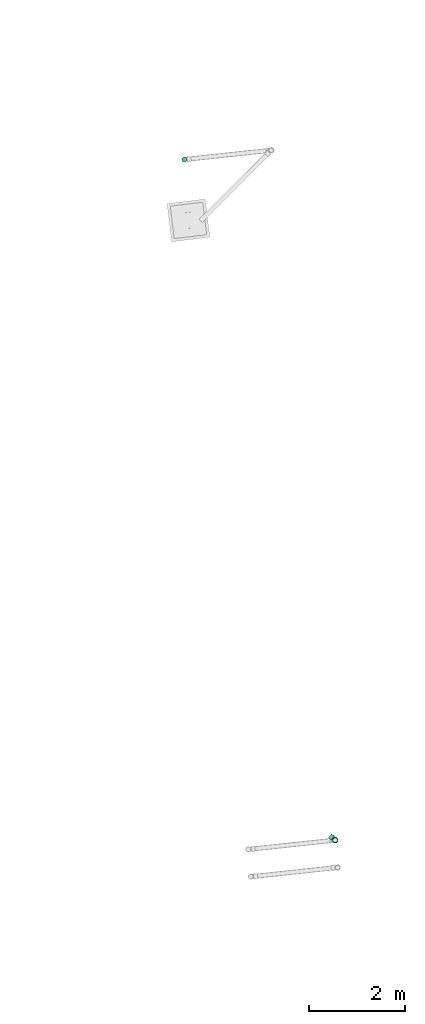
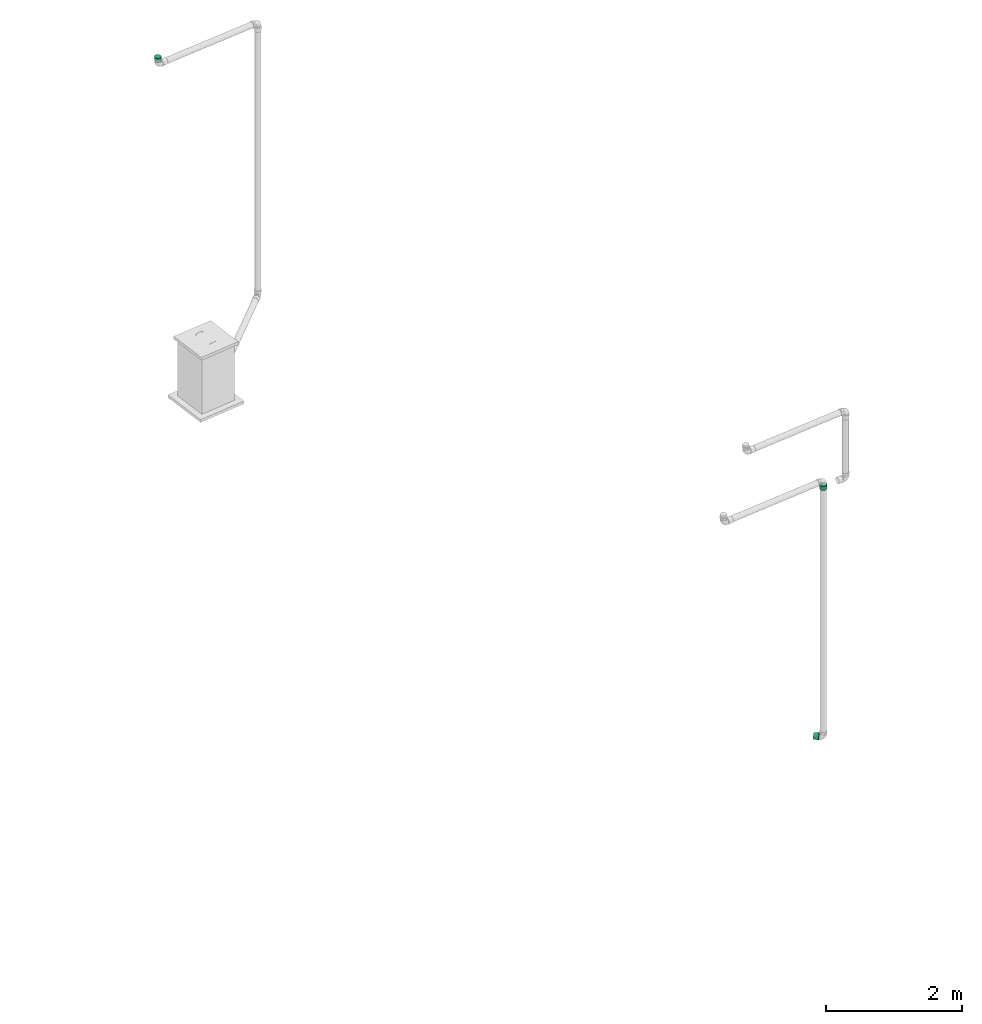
# One storey, part 43 of 97: 2 flow fittings, 1 flow segment.
"""IFC2X3 building model written with IfcOpenShell, lengths in centimetres."""

from ifc_helpers import new_model, entity, si_unit, converted_unit, derived_unit, direction, frame, frame_2d, origin, place, context, subcontext, project, spatial, circle, extrude, faceted_brep, source, transform, mapped, material, type_object, type_shapes, element, save


model = new_model("IFC2X3")

# Units and contexts
model_context = context("Model", 3, precision=0.001, world=origin(), true_north=direction((6.12303176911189e-17, 1.0)))
body_context = subcontext(model_context, "Body", "Model", "MODEL_VIEW")
ifc_project = project(units=[si_unit("LENGTHUNIT", "METRE", prefix="CENTI"), si_unit("AREAUNIT", "SQUARE_METRE"), si_unit("VOLUMEUNIT", "CUBIC_METRE"), converted_unit("PLANEANGLEUNIT", "DEGREE", entity("IfcRatioMeasure", 0.0174532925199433), si_unit("PLANEANGLEUNIT", "RADIAN"), dimensions=[0, 0, 0, 0, 0, 0, 0]), si_unit("MASSUNIT", "GRAM", prefix="KILO"), derived_unit("MASSDENSITYUNIT", [(si_unit("MASSUNIT", "GRAM", prefix="KILO"), 1), (si_unit("LENGTHUNIT", "METRE"), -3)]), derived_unit("MOMENTOFINERTIAUNIT", [(si_unit("LENGTHUNIT", "METRE"), 4)]), si_unit("TIMEUNIT", "SECOND"), si_unit("FREQUENCYUNIT", "HERTZ"), si_unit("THERMODYNAMICTEMPERATUREUNIT", "DEGREE_CELSIUS"), derived_unit("THERMALTRANSMITTANCEUNIT", [(si_unit("MASSUNIT", "GRAM", prefix="KILO"), 1), (si_unit("THERMODYNAMICTEMPERATUREUNIT", "KELVIN"), -1), (si_unit("TIMEUNIT", "SECOND"), -3)]), derived_unit("VOLUMETRICFLOWRATEUNIT", [(si_unit("LENGTHUNIT", "METRE"), 3), (si_unit("TIMEUNIT", "SECOND"), -1)]), si_unit("ELECTRICCURRENTUNIT", "AMPERE"), si_unit("ELECTRICVOLTAGEUNIT", "VOLT"), si_unit("POWERUNIT", "WATT"), si_unit("FORCEUNIT", "NEWTON", prefix="KILO"), si_unit("ILLUMINANCEUNIT", "LUX"), si_unit("LUMINOUSFLUXUNIT", "LUMEN"), si_unit("LUMINOUSINTENSITYUNIT", "CANDELA"), derived_unit("USERDEFINED", [(si_unit("MASSUNIT", "GRAM", prefix="KILO"), -1), (si_unit("LENGTHUNIT", "METRE"), -2), (si_unit("TIMEUNIT", "SECOND"), 3), (si_unit("LUMINOUSFLUXUNIT", "LUMEN"), 1)]), derived_unit("LINEARVELOCITYUNIT", [(si_unit("LENGTHUNIT", "METRE"), 1), (si_unit("TIMEUNIT", "SECOND"), -1)]), si_unit("PRESSUREUNIT", "PASCAL"), derived_unit("USERDEFINED", [(si_unit("LENGTHUNIT", "METRE"), -2), (si_unit("MASSUNIT", "GRAM", prefix="KILO"), 1), (si_unit("TIMEUNIT", "SECOND"), -2)]), derived_unit("LINEARFORCEUNIT", [(si_unit("MASSUNIT", "GRAM", prefix="KILO"), 1), (si_unit("LENGTHUNIT", "METRE"), 1), (si_unit("TIMEUNIT", "SECOND"), -2), (si_unit("LENGTHUNIT", "METRE"), -1)]), derived_unit("PLANARFORCEUNIT", [(si_unit("MASSUNIT", "GRAM", prefix="KILO"), 1), (si_unit("LENGTHUNIT", "METRE"), 1), (si_unit("TIMEUNIT", "SECOND"), -2), (si_unit("LENGTHUNIT", "METRE"), -2)])], contexts=[model_context])

# Site, building, storey
site_placement = place(None, origin())
site = spatial("IfcSite", under=ifc_project, at=site_placement, Name="Default", CompositionType="ELEMENT")
building_placement = place(site_placement, origin())
building = spatial("IfcBuilding", under=site, at=building_placement, Name="HIDROSSANITÁRIO", CompositionType="ELEMENT")
storey_placement = place(building_placement, frame((0.0, 0.0, -260.0)))
storey = spatial("IfcBuildingStorey", under=building, at=storey_placement, Name="TÉRREO-HID", CompositionType="ELEMENT", Elevation=-260.0)

# Flow segment
pipe_segment_type = type_object("IfcPipeSegmentType", Name="Tipos de tubos:Tubo - Esgoto - Série Normal", PredefinedType="NOTDEFINED")
flow_segment_placement = place(storey_placement, origin())
element("IfcFlowSegment", 1, at=flow_segment_placement, inside=storey, type_object=pipe_segment_type, Name="Tipos de tubos:Tubo - Esgoto - Série Normal", ObjectType="Tipos de tubos:Tubo - Esgoto - Série Normal", context=body_context, shape_type="SweptSolid", body=[
    extrude(circle(Radius=5.0, at=frame_2d((4.33146851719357e-13, 4.33146851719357e-13), x_axis=(1.0, 0.0))), frame((2635.56569547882, 2830.5002002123, 466.4), z_axis=(0.0, 0.0, 1.0), x_axis=(-1.0, 0.0, 0.0)), (0.0, 0.0, 1.0), 8.09999999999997),
])

# Flow fittings
ifc_material = material(Name="PVC Branco")
pipe_fitting_type = type_object("IfcPipeFittingType", Name="Luva Simples para Conexão - Serie Normal - Esgoto - MEP - Tigre:Standard", PredefinedType="NOTDEFINED", material=ifc_material)
shared_shape = source(origin(), body_context, "Body", "Brep", [
    faceted_brep([(1.77700000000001, 2.8725, -4.9753159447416), (1.77700000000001, 4.06232845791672, -4.06232845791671), (1.77700000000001, 2.65249999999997, -4.59426476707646), (1.77700000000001, 1.37303503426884, -5.12423650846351), (1.77700000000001, 1.48691541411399, -5.5492438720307), (1.77700000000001, 3.75120147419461, -3.75120147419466), (1.77700000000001, 4.9753159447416, -2.8725), (1.77700000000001, 4.59426476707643, -2.65250000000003), (1.77700000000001, 5.1242365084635, -1.37303503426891), (1.77700000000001, 5.5492438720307, -1.48691541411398), (1.77700000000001, 5.305, 0.0), (1.77700000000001, 5.745, 0.0), (1.77700000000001, 5.1242365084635, 1.3730350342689), (1.77700000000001, 5.54924387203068, 1.48691541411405), (1.77700000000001, 4.59426476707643, 2.65250000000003), (1.77700000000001, 4.97531594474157, 2.87250000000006), (1.77700000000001, 3.75120147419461, 3.75120147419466), (1.77700000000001, 4.06232845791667, 4.06232845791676), (1.77700000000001, 2.65249999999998, 4.59426476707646), (1.77700000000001, 2.87249999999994, 4.97531594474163), (1.77700000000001, 1.37303503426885, 5.12423650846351), (1.77700000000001, 1.48691541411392, 5.54924387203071), (1.77700000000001, 0.0, 5.305), (1.77700000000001, 0.0, 5.745), (1.77700000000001, -1.37303503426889, 5.1242365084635), (1.77700000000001, -1.48691541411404, 5.54924387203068), (1.77700000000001, -2.65250000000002, 4.59426476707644), (1.77700000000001, -2.87250000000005, 4.97531594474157), (1.77700000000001, -3.75120147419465, 3.75120147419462), (1.77700000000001, -4.06232845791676, 4.06232845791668), (1.77700000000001, -4.59426476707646, 2.65249999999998), (1.77700000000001, -4.97531594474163, 2.87249999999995), (1.77700000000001, -5.54924387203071, 1.48691541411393), (1.77700000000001, -5.12423650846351, 1.37303503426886), (1.77700000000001, -5.745, 0.0), (1.77700000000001, -5.305, 0.0), (1.77700000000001, -5.54924387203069, -1.486915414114), (1.77700000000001, -5.12423650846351, -1.37303503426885), (1.77700000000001, -4.97531594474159, -2.87250000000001), (1.77700000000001, -4.59426476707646, -2.65249999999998), (1.77700000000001, -4.06232845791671, -4.06232845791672), (1.77700000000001, -3.75120147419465, -3.75120147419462), (1.77700000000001, -2.87249999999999, -4.97531594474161), (1.77700000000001, -2.65250000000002, -4.59426476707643), (1.77700000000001, -1.48691541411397, -5.5492438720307), (1.77700000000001, -1.3730350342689, -5.1242365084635), (1.77700000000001, 0.0, -5.745), (1.77700000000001, 0.0, -5.305), (0.657000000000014, -1.93463887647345, 5.31665771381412), (0.657000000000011, -4.4007619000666, 3.69300957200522), (0.657000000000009, -4.89962626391, 2.82901737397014), (0.657000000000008, -5.39849062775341, 1.96502517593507), (0.657000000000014, -2.87216972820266, 4.97550661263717), (0.657000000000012, -3.63646581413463, 4.3342580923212), (0.657000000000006, -5.5717453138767, 0.982512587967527), (0.657000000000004, -5.745, 0.0), (0.657000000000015, -0.997108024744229, 5.65780881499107), (0.657000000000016, 0.998234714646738, 5.65761013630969), (0.657000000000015, 0.0005633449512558, 5.65770947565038), (0.657000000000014, 3.63732887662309, 4.33353383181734), (0.657000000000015, 1.93569761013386, 5.31627233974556), (0.657000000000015, 2.87316050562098, 4.97493454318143), (0.65700000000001, 5.39888184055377, 1.96395006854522), (0.657000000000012, 4.90018954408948, 2.82804159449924), (0.657000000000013, 4.40149724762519, 3.69213312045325), (0.657000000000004, 5.745, 0.0), (0.656999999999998, 4.40149724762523, -3.6921331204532), (0.657, 4.90018954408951, -2.82804159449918), (0.657000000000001, 5.39888184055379, -1.96395006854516), (0.656999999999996, 2.87316050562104, -4.9749345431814), (0.656999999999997, 3.63732887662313, -4.3335338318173), (0.656999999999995, 1.93569761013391, -5.31627233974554), (0.656999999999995, 0.998234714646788, -5.65761013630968), (0.656999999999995, -0.997108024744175, -5.65780881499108), (0.656999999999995, 0.000563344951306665, -5.65770947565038), (0.656999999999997, -3.6364658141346, -4.33425809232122), (0.656999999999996, -2.87216972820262, -4.9755066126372), (0.656999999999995, -1.9346388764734, -5.31665771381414), (0.657000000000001, -5.39849062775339, -1.96502517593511), (0.657, -4.89962626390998, -2.82901737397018), (0.656999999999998, -4.40076190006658, -3.69300957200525), (0.657000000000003, -5.5717453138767, -0.982512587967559), (8.35200000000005, 2.6525, -4.59426476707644), (8.35200000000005, 3.75120147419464, -3.75120147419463), (8.35200000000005, 2.49999999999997, -4.33012701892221), (8.35200000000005, 1.29409522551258, -4.82962913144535), (8.35200000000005, 1.37303503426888, -5.1242365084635), (8.35200000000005, 3.53553390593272, -3.53553390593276), (8.35200000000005, 4.59426476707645, -2.6525), (8.35200000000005, 4.33012701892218, -2.50000000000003), (8.35200000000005, 4.82962913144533, -1.29409522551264), (8.35200000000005, 5.12423650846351, -1.37303503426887), (8.35200000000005, 5.0, 0.0), (8.35200000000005, 5.305, 0.0), (8.35200000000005, 4.82962913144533, 1.29409522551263), (8.35200000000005, 5.12423650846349, 1.37303503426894), (8.35200000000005, 4.33012701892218, 2.50000000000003), (8.35200000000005, 4.59426476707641, 2.65250000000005), (8.35200000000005, 3.53553390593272, 3.53553390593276), (8.35200000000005, 3.75120147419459, 3.75120147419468), (8.35200000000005, 2.49999999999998, 4.33012701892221), (8.35200000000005, 2.65249999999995, 4.59426476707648), (8.35200000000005, 1.29409522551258, 4.82962913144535), (8.35200000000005, 1.37303503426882, 5.12423650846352), (8.35200000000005, 0.0, 5.0), (8.35200000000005, 0.0, 5.305), (8.35200000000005, -1.29409522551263, 4.82962913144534), (8.35200000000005, -1.37303503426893, 5.12423650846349), (8.35200000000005, -2.50000000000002, 4.33012701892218), (8.35200000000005, -2.65250000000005, 4.59426476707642), (8.35200000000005, -3.53553390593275, 3.53553390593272), (8.35200000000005, -3.75120147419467, 3.7512014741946), (8.35200000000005, -4.3301270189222, 2.49999999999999), (8.35200000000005, -4.59426476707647, 2.65249999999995), (8.35200000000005, -5.12423650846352, 1.37303503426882), (8.35200000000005, -4.82962913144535, 1.29409522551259), (8.35200000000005, -5.305, 0.0), (8.35200000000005, -5.0, 0.0), (8.35200000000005, -5.1242365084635, -1.37303503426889), (8.35200000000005, -4.82962913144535, -1.29409522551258), (8.35200000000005, -4.59426476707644, -2.65250000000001), (8.35200000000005, -4.3301270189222, -2.49999999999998), (8.35200000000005, -3.75120147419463, -3.75120147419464), (8.35200000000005, -3.53553390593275, -3.53553390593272), (8.35200000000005, -2.65249999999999, -4.59426476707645), (8.35200000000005, -2.50000000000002, -4.33012701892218), (8.35200000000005, -1.37303503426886, -5.12423650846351), (8.35200000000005, -1.29409522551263, -4.82962913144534), (8.35200000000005, 0.0, -5.305), (8.35200000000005, 0.0, -5.0), (0.0, 2.49999999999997, -4.33012701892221), (0.0, 3.75120147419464, -3.75120147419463), (0.0, 2.6525, -4.59426476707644), (0.0, 1.29409522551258, -4.82962913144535), (0.0, 3.53553390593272, -3.53553390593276), (0.0, 4.59426476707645, -2.6525), (0.0, 4.33012701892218, -2.50000000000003), (0.0, 4.82962913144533, -1.29409522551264), (0.0, 5.12423650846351, -1.37303503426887), (0.0, 5.0, 0.0), (0.0, 5.305, 0.0), (0.0, 4.82962913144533, 1.29409522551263), (0.0, 5.12423650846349, 1.37303503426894), (0.0, 4.33012701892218, 2.50000000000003), (0.0, 4.59426476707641, 2.65250000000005), (0.0, 3.53553390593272, 3.53553390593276), (0.0, 3.75120147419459, 3.75120147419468), (0.0, 2.49999999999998, 4.33012701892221), (0.0, 2.65249999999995, 4.59426476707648), (0.0, 1.29409522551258, 4.82962913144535), (0.0, 1.37303503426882, 5.12423650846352), (0.0, 0.0, 5.0), (0.0, 0.0, 5.305), (0.0, -1.29409522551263, 4.82962913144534), (0.0, -1.37303503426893, 5.12423650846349), (0.0, -2.50000000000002, 4.33012701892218), (0.0, -2.65250000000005, 4.59426476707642), (0.0, -3.53553390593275, 3.53553390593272), (0.0, -3.75120147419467, 3.7512014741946), (0.0, -4.3301270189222, 2.49999999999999), (0.0, -4.59426476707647, 2.65249999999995), (0.0, -5.12423650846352, 1.37303503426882), (0.0, -4.82962913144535, 1.29409522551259), (0.0, -5.305, 0.0), (0.0, -5.0, 0.0), (0.0, -5.1242365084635, -1.37303503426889), (0.0, -4.82962913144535, -1.29409522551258), (0.0, -4.59426476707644, -2.65250000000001), (0.0, -4.3301270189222, -2.49999999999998), (0.0, -3.75120147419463, -3.75120147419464), (0.0, -3.53553390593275, -3.53553390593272), (0.0, -2.65249999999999, -4.59426476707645), (0.0, -2.50000000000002, -4.33012701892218), (0.0, -1.37303503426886, -5.12423650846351), (0.0, -1.29409522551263, -4.82962913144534), (0.0, 0.0, -5.305), (0.0, 0.0, -5.0), (0.0, 1.37303503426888, -5.1242365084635), (0.537000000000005, -5.305, 0.0), (0.537000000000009, -4.98507989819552, 1.81438788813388), (0.537000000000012, -4.06390540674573, 3.4099410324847), (0.537000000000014, -2.65258010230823, 4.59421851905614), (0.537000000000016, -0.921325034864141, 5.22438371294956), (0.537000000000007, 5.1449924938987, 0.907324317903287), (0.537000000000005, 5.305, 0.0), (0.537000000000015, 2.65233979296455, 4.59435725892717), (0.537000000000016, 0.921051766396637, 5.22443189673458), (0.537000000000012, 4.06372704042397, 3.41015359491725), (0.537000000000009, 4.9849849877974, 1.81464863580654), (0.537000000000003, 5.14499249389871, -0.907324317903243), (0.537000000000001, 4.98498498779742, -1.81464863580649), (0.536999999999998, 4.063727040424, -3.41015359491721), (0.536999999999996, 2.6523397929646, -4.59435725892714), (0.536999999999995, 0.921051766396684, -5.22443189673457), (0.536999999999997, -2.6525801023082, -4.59421851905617), (0.536999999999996, -0.921325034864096, -5.22438371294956), (0.536999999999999, -4.0639054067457, -3.40994103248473), (0.537000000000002, -4.98507989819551, -1.81438788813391), (5.0, -5.0, 0.0), (5.0, 5.0, 0.0)], [[[0, 1, 2]], [[0, 2, 3]], [[3, 4, 0]], [[2, 1, 5]], [[6, 5, 1]], [[5, 6, 7]], [[7, 6, 8]], [[9, 8, 6]], [[9, 10, 8]], [[10, 9, 11]], [[12, 10, 11]], [[11, 13, 12]], [[12, 13, 14]], [[15, 14, 13]], [[14, 15, 16]], [[16, 15, 17]], [[18, 16, 17]], [[17, 19, 18]], [[18, 19, 20]], [[21, 20, 19]], [[20, 21, 22]], [[22, 21, 23]], [[22, 23, 24]], [[24, 23, 25]], [[24, 25, 26]], [[27, 26, 25]], [[27, 28, 26]], [[28, 27, 29]], [[29, 30, 28]], [[31, 30, 29]], [[30, 31, 32]], [[32, 33, 30]], [[34, 33, 32]], [[34, 35, 33]], [[36, 35, 34]], [[36, 37, 35]], [[37, 36, 38]], [[38, 39, 37]], [[39, 38, 40]], [[39, 40, 41]], [[40, 42, 41]], [[41, 42, 43]], [[43, 42, 44]], [[44, 45, 43]], [[46, 45, 44]], [[4, 47, 46]], [[46, 47, 45]], [[4, 3, 47]], [[48, 27, 25]], [[31, 29, 49]], [[31, 49, 50, 51]], [[52, 53, 27]], [[32, 51, 54]], [[54, 55, 34]], [[54, 34, 32]], [[25, 56, 48]], [[49, 29, 53]], [[23, 57, 58, 56]], [[59, 19, 17]], [[27, 53, 29]], [[48, 52, 27]], [[31, 51, 32]], [[57, 23, 21]], [[60, 19, 61]], [[15, 62, 63, 64]], [[19, 60, 21]], [[15, 13, 62]], [[17, 64, 59]], [[57, 21, 60]], [[23, 56, 25]], [[15, 64, 17]], [[13, 65, 62]], [[13, 11, 65]], [[59, 61, 19]], [[65, 11, 9]], [[6, 1, 66]], [[6, 66, 67, 68]], [[69, 70, 0]], [[68, 65, 9]], [[71, 69, 0]], [[71, 0, 4]], [[4, 72, 71]], [[66, 1, 70]], [[46, 73, 74, 72]], [[75, 76, 42]], [[0, 70, 1]], [[75, 42, 40]], [[6, 68, 9]], [[73, 46, 44]], [[77, 42, 76]], [[38, 78, 79, 80]], [[42, 77, 44]], [[38, 36, 78]], [[40, 80, 75]], [[73, 44, 77]], [[46, 72, 4]], [[38, 80, 40]], [[81, 78, 36]], [[55, 81, 34]], [[34, 81, 36]], [[82, 83, 84]], [[82, 84, 85]], [[85, 86, 82]], [[84, 83, 87]], [[88, 87, 83]], [[87, 88, 89]], [[89, 88, 90]], [[91, 90, 88]], [[91, 92, 90]], [[92, 91, 93]], [[94, 92, 93]], [[93, 95, 94]], [[94, 95, 96]], [[97, 96, 95]], [[96, 97, 98]], [[98, 97, 99]], [[100, 98, 99]], [[99, 101, 100]], [[100, 101, 102]], [[103, 102, 101]], [[102, 103, 104]], [[104, 103, 105]], [[104, 105, 106]], [[106, 105, 107]], [[106, 107, 108]], [[109, 108, 107]], [[110, 108, 109]], [[110, 109, 111]], [[111, 112, 110]], [[113, 112, 111]], [[112, 113, 114]], [[114, 115, 112]], [[116, 115, 114]], [[116, 117, 115]], [[118, 117, 116]], [[118, 119, 117]], [[119, 118, 120]], [[120, 121, 119]], [[121, 120, 122]], [[121, 122, 123]], [[122, 124, 123]], [[125, 123, 124]], [[125, 124, 126]], [[126, 127, 125]], [[128, 127, 126]], [[86, 129, 128]], [[128, 129, 127]], [[86, 85, 129]], [[130, 131, 132]], [[133, 130, 132]], [[134, 131, 130]], [[131, 134, 135]], [[136, 135, 134]], [[137, 135, 136]], [[135, 137, 138]], [[137, 139, 138]], [[140, 138, 139]], [[140, 139, 141]], [[141, 142, 140]], [[143, 142, 141]], [[142, 143, 144]], [[145, 144, 143]], [[146, 144, 145]], [[146, 145, 147]], [[147, 148, 146]], [[149, 148, 147]], [[148, 149, 150]], [[151, 150, 149]], [[152, 150, 151]], [[153, 152, 151]], [[154, 152, 153]], [[155, 154, 153]], [[154, 155, 156]], [[156, 155, 157]], [[158, 156, 157]], [[157, 159, 158]], [[158, 159, 160]], [[161, 160, 159]], [[159, 162, 161]], [[161, 162, 163]], [[162, 164, 163]], [[163, 164, 165]], [[164, 166, 165]], [[167, 165, 166]], [[166, 168, 167]], [[169, 167, 168]], [[170, 169, 168]], [[170, 171, 169]], [[171, 170, 172]], [[173, 171, 172]], [[172, 174, 173]], [[173, 174, 175]], [[174, 176, 175]], [[176, 133, 177]], [[175, 176, 177]], [[132, 177, 133]], [[161, 178, 179]], [[158, 180, 181]], [[179, 180, 160]], [[181, 182, 154]], [[179, 160, 161]], [[161, 163, 178]], [[35, 116, 114, 33]], [[183, 184, 140]], [[181, 156, 158]], [[158, 160, 180]], [[181, 154, 156]], [[182, 152, 154]], [[183, 140, 142]], [[185, 150, 186]], [[187, 146, 185]], [[142, 188, 183]], [[187, 188, 144]], [[185, 148, 150]], [[150, 152, 186]], [[187, 144, 146]], [[146, 148, 185]], [[188, 142, 144]], [[186, 152, 182]], [[189, 190, 138]], [[131, 191, 192]], [[190, 191, 135]], [[192, 193, 177]], [[190, 135, 138]], [[184, 189, 140]], [[192, 132, 131]], [[131, 135, 191]], [[192, 177, 132]], [[193, 175, 177]], [[140, 189, 138]], [[194, 173, 195]], [[196, 169, 194]], [[165, 197, 178]], [[196, 197, 167]], [[165, 178, 163]], [[35, 37, 118, 116]], [[194, 171, 173]], [[173, 175, 195]], [[196, 167, 169]], [[169, 171, 194]], [[197, 165, 167]], [[195, 175, 193]], [[115, 117, 198, 164, 162]], [[155, 108, 110, 157]], [[110, 112, 159, 157]], [[112, 115, 162, 159]], [[106, 108, 155, 153]], [[153, 151, 104, 106]], [[102, 104, 151, 149]], [[102, 149, 147, 100]], [[141, 94, 96, 143]], [[96, 98, 145, 143]], [[98, 100, 147, 145]], [[92, 94, 141, 139, 199]], [[199, 139, 137, 90, 92]], [[87, 89, 136, 134]], [[134, 130, 84, 87]], [[89, 90, 137, 136]], [[85, 84, 130, 133]], [[133, 176, 129, 85]], [[127, 129, 176, 174]], [[127, 174, 172, 125]], [[166, 119, 121, 168]], [[121, 123, 170, 168]], [[123, 125, 172, 170]], [[117, 119, 166, 164, 198]], [[81, 178, 197]], [[190, 68, 67]], [[194, 75, 196]], [[193, 72, 74]], [[195, 77, 194]], [[79, 197, 196]], [[81, 55, 178]], [[192, 69, 71]], [[79, 78, 197]], [[194, 77, 76]], [[191, 66, 70]], [[80, 196, 75]], [[68, 190, 189]], [[74, 195, 193]], [[192, 71, 193]], [[190, 67, 191]], [[70, 192, 191]], [[65, 189, 184]], [[195, 73, 77]], [[193, 71, 72]], [[197, 78, 81]], [[191, 67, 66]], [[189, 65, 68]], [[196, 80, 79]], [[70, 69, 192]], [[194, 76, 75]], [[73, 195, 74]], [[65, 183, 62]], [[48, 56, 182]], [[58, 182, 56]], [[54, 51, 179]], [[59, 185, 61]], [[60, 186, 57]], [[53, 52, 181]], [[63, 187, 64]], [[58, 57, 186]], [[187, 63, 188]], [[186, 60, 185]], [[50, 49, 180]], [[185, 59, 187]], [[59, 64, 187]], [[182, 58, 186]], [[50, 179, 51]], [[54, 178, 55]], [[53, 180, 49]], [[63, 62, 188]], [[181, 48, 182]], [[183, 65, 184]], [[179, 50, 180]], [[178, 54, 179]], [[183, 188, 62]], [[180, 53, 181]], [[60, 61, 185]], [[48, 181, 52]], [[30, 33, 114, 113]], [[26, 28, 111, 109]], [[113, 111, 28, 30]], [[107, 24, 26, 109]], [[107, 105, 22, 24]], [[18, 20, 103, 101]], [[99, 16, 18, 101]], [[12, 14, 97, 95]], [[99, 97, 14, 16]], [[10, 12, 95, 93]], [[103, 20, 22, 105]], [[91, 8, 10, 93]], [[88, 7, 8, 91]], [[82, 86, 3, 2]], [[83, 5, 7, 88]], [[2, 5, 83, 82]], [[86, 128, 47, 3]], [[43, 45, 126, 124]], [[122, 41, 43, 124]], [[37, 39, 120, 118]], [[122, 120, 39, 41]], [[126, 45, 47, 128]]]),
])
type_shapes(pipe_fitting_type, [shared_shape])
for number, where, z_axis, x_axis, name in (
    (2, (2949.64169136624, 1413.63693169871, 454.6), (0.106567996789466, -0.994305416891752, 0.0), (0.0, 0.0, -1.0), "Luva Simples para Conexão - Serie Normal - Esgoto - MEP - Tigre:Standard"),
    (3, (2945.11557212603, 1417.34044207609, -0.0580307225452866), (0.633270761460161, 0.773930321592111, 0.0), (-0.773892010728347, 0.63323941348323, -0.00994992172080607), "Luva Simples para Conexão - Serie Normal - Esgoto - MEP - Tigre:Standard"),
):
    element("IfcFlowFitting", number, at=place(storey_placement, frame(where, z_axis=z_axis, x_axis=x_axis)), inside=storey, type_object=pipe_fitting_type, material=ifc_material, Name=name, ObjectType="Luva Simples para Conexão - Serie Normal - Esgoto - MEP - Tigre:Standard", context=body_context, shape_type="MappedRepresentation", body=[
        mapped(shared_shape, transform((0.0, 0.0, 0.0), scale=1.0)),
    ])

save(model, "model.ifc")
